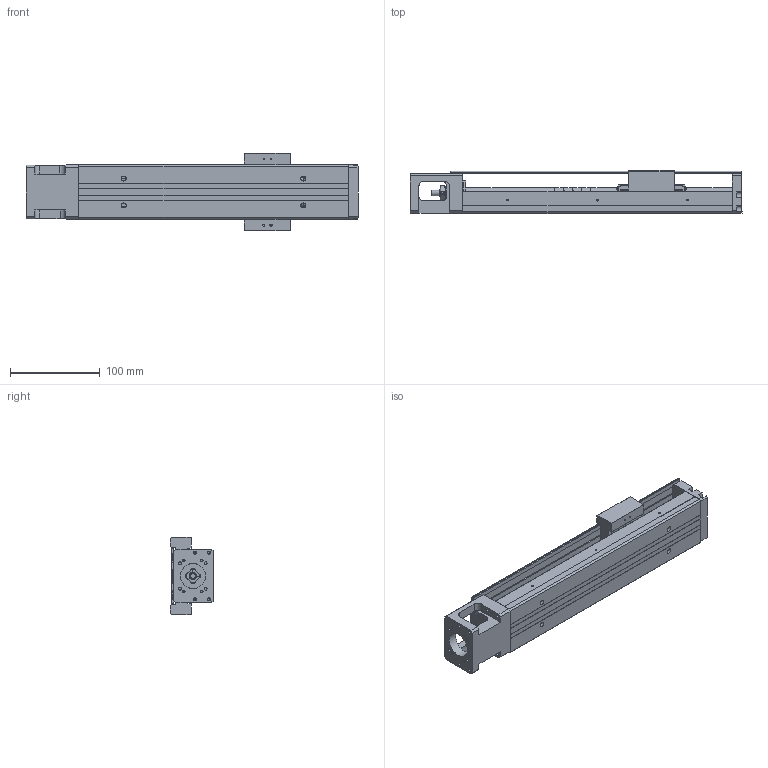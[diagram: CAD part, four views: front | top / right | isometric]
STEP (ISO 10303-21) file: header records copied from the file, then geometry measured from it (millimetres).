
FILE_DESCRIPTION(/* description */ (''),/* implementation_level */ '2;1');
FILE_NAME(/* name */ '33L-300C.stp',/* time_stamp */ '2016-12-20T13:28:00+08:00',/* author */ (''),/* organization */ (''),/* preprocessor_version */ 'ST-DEVELOPER v11',/* originating_system */ 'SIEMENS UGS NX 6.0',/* authorisation */ '');
FILE_SCHEMA (('AUTOMOTIVE_DESIGN { 1 0 10303 214 1 1 1 1 }'));
Length unit declared in the file: millimetre
Products named in the file (1): model4
Bounding box: 370 x 47.95 x 86 mm (x, y, z)
Volume: 536699.2 mm3; surface area: 183107.8 mm2
Topology: 7 solids, 12 shells, 707 faces, 1792 edges, 1185 vertices
Faces by surface type: plane 424, cylinder 196, bspline 31, cone 24, extrusion 21, torus 9, revolution 2
Full cylindrical faces by diameter (mm): 1.6 x4, 1.65 x4, 2.15 x3, 2.42 x4, 2.45 x8, 2.5 x18, 3 x3, 3.2 x4, 3.3 x4, 3.4 x3, 3.5 x10, 3.969 x1, 4 x6, 4.001 x1, 4.135 x4, 4.2 x4, 5.5 x4, 6 x5, 7.6 x1, 8 x5, 9.5 x4, 10.72 x3, 11.8 x2, 12 x6, 12.8 x1, 13 x2, 14 x1, 17.38 x3, 21.5 x1, 22 x2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
Entity records: 36596 total; most frequent: CARTESIAN_POINT 16453, DIRECTION 3214, ORIENTED_EDGE 3114, EDGE_CURVE 1557, AXIS2_PLACEMENT_3D 1122, VERTEX_POINT 1107, EDGE_LOOP 1002, VECTOR 968
